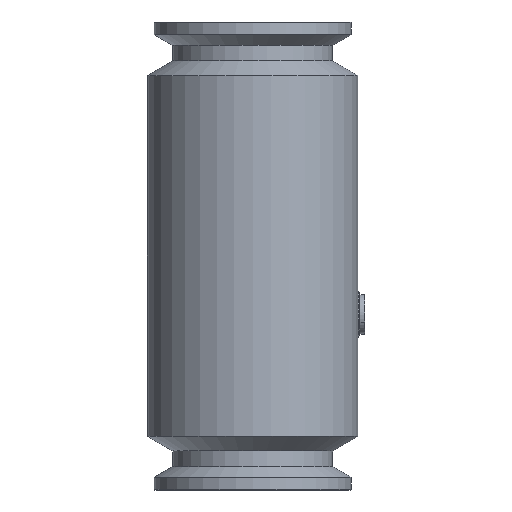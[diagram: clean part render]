
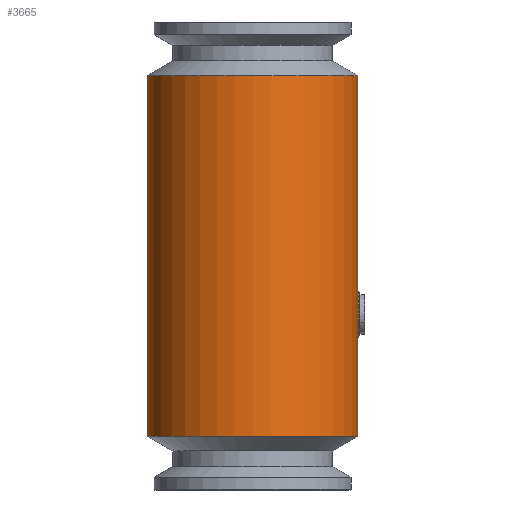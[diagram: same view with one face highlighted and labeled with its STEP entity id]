
A CAD part, front view. The second image highlights one B-rep face of the part: STEP entity #3665.
In plain terms, the highlighted cylindrical face has radius 27 mm (diameter 54 mm), a full revolution.
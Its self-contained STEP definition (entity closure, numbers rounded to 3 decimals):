
#2273=FACE_BOUND('',#5510,.T.);
#2274=FACE_BOUND('',#5511,.T.);
#2275=FACE_BOUND('',#5512,.T.);
#2455=CYLINDRICAL_SURFACE('',#15980,27.);
#2867=CIRCLE('',#15978,27.);
#2868=CIRCLE('',#15979,27.);
#3665=ADVANCED_FACE('',(#2273,#2274,#2275),#2455,.T.);
#5510=EDGE_LOOP('',(#9753));
#5511=EDGE_LOOP('',(#9754));
#5512=EDGE_LOOP('',(#9755,#9756,#9757,#9758,#9759,#9760));
#6280=B_SPLINE_CURVE_WITH_KNOTS('',3,(#32863,#32864,#32865,#32866,#32867,
#32868),.UNSPECIFIED.,.F.,.F.,(4,2,4),(0.,0.5,1.),.UNSPECIFIED.);
#6281=B_SPLINE_CURVE_WITH_KNOTS('',3,(#32870,#32871,#32872,#32873,#32874,
#32875),.UNSPECIFIED.,.F.,.F.,(4,2,4),(0.,0.5,1.),.UNSPECIFIED.);
#6282=B_SPLINE_CURVE_WITH_KNOTS('',3,(#32876,#32877,#32878,#32879,#32880,
#32881),.UNSPECIFIED.,.F.,.F.,(4,2,4),(0.,0.5,1.),.UNSPECIFIED.);
#6283=B_SPLINE_CURVE_WITH_KNOTS('',3,(#32883,#32884,#32885,#32886,#32887,
#32888),.UNSPECIFIED.,.F.,.F.,(4,2,4),(0.,0.5,1.),.UNSPECIFIED.);
#9753=ORIENTED_EDGE('',*,*,#13101,.T.);
#9754=ORIENTED_EDGE('',*,*,#13102,.T.);
#9755=ORIENTED_EDGE('',*,*,#13099,.T.);
#9756=ORIENTED_EDGE('',*,*,#13103,.T.);
#9757=ORIENTED_EDGE('',*,*,#13104,.T.);
#9758=ORIENTED_EDGE('',*,*,#13097,.T.);
#9759=ORIENTED_EDGE('',*,*,#13105,.T.);
#9760=ORIENTED_EDGE('',*,*,#13106,.T.);
#11255=VERTEX_POINT('',#32851);
#11256=VERTEX_POINT('',#32852);
#11257=VERTEX_POINT('',#32854);
#11258=VERTEX_POINT('',#32856);
#11259=VERTEX_POINT('',#32860);
#11260=VERTEX_POINT('',#32862);
#11261=VERTEX_POINT('',#32869);
#11262=VERTEX_POINT('',#32882);
#13097=EDGE_CURVE('',#11255,#11256,#14061,.T.);
#13099=EDGE_CURVE('',#11258,#11257,#14062,.T.);
#13101=EDGE_CURVE('',#11259,#11259,#2867,.T.);
#13102=EDGE_CURVE('',#11260,#11260,#2868,.T.);
#13103=EDGE_CURVE('',#11257,#11261,#6280,.T.);
#13104=EDGE_CURVE('',#11261,#11255,#6281,.T.);
#13105=EDGE_CURVE('',#11256,#11262,#6282,.T.);
#13106=EDGE_CURVE('',#11262,#11258,#6283,.T.);
#14061=LINE('',#32850,#15044);
#14062=LINE('',#32855,#15045);
#15044=VECTOR('',#18907,1.);
#15045=VECTOR('',#18910,1.);
#15978=AXIS2_PLACEMENT_3D('',#32859,#18915,#18916);
#15979=AXIS2_PLACEMENT_3D('',#32861,#18917,#18918);
#15980=AXIS2_PLACEMENT_3D('',#32889,#18919,#18920);
#18907=DIRECTION('',(0.,0.,-1.));
#18910=DIRECTION('',(0.,0.,1.));
#18915=DIRECTION('',(0.,0.,-1.));
#18916=DIRECTION('',(1.,0.,0.));
#18917=DIRECTION('',(0.,0.,1.));
#18918=DIRECTION('',(-1.,0.,0.));
#18919=DIRECTION('',(0.,0.,1.));
#18920=DIRECTION('',(-1.,0.,0.));
#32850=CARTESIAN_POINT('',(-10.229,14.,36.));
#32851=CARTESIAN_POINT('',(-10.229,14.,150.206));
#32852=CARTESIAN_POINT('',(-10.229,14.,135.794));
#32854=CARTESIAN_POINT('',(10.167,14.,150.25));
#32855=CARTESIAN_POINT('',(10.167,14.,36.));
#32856=CARTESIAN_POINT('',(10.167,14.,135.75));
#32859=CARTESIAN_POINT('',(-0.031,-11.,204.247));
#32860=CARTESIAN_POINT('',(26.969,-11.,204.247));
#32861=CARTESIAN_POINT('',(-0.031,-11.,111.753));
#32862=CARTESIAN_POINT('',(-27.031,-11.,111.753));
#32863=CARTESIAN_POINT('',(10.167,14.,150.25));
#32864=CARTESIAN_POINT('',(9.22,14.386,152.247));
#32865=CARTESIAN_POINT('',(7.876,14.878,154.013));
#32866=CARTESIAN_POINT('',(4.401,15.693,156.658));
#32867=CARTESIAN_POINT('',(2.224,16.,157.502));
#32868=CARTESIAN_POINT('',(-0.031,16.,157.5));
#32869=CARTESIAN_POINT('',(-0.031,16.,157.5));
#32870=CARTESIAN_POINT('',(-0.031,16.,157.5));
#32871=CARTESIAN_POINT('',(-2.289,16.,157.498));
#32872=CARTESIAN_POINT('',(-4.449,15.697,156.659));
#32873=CARTESIAN_POINT('',(-7.949,14.875,153.984));
#32874=CARTESIAN_POINT('',(-9.287,14.385,152.209));
#32875=CARTESIAN_POINT('',(-10.229,14.,150.206));
#32876=CARTESIAN_POINT('',(-10.229,14.,135.794));
#32877=CARTESIAN_POINT('',(-9.286,14.385,133.79));
#32878=CARTESIAN_POINT('',(-7.945,14.876,132.015));
#32879=CARTESIAN_POINT('',(-4.47,15.692,129.355));
#32880=CARTESIAN_POINT('',(-2.291,16.,128.502));
#32881=CARTESIAN_POINT('',(-0.031,16.,128.5));
#32882=CARTESIAN_POINT('',(-0.031,16.,128.5));
#32883=CARTESIAN_POINT('',(-0.031,16.,128.5));
#32884=CARTESIAN_POINT('',(2.221,16.,128.498));
#32885=CARTESIAN_POINT('',(4.379,15.698,129.328));
#32886=CARTESIAN_POINT('',(7.881,14.877,131.988));
#32887=CARTESIAN_POINT('',(9.22,14.386,133.754));
#32888=CARTESIAN_POINT('',(10.167,14.,135.75));
#32889=CARTESIAN_POINT('',(-0.031,-11.,36.));
